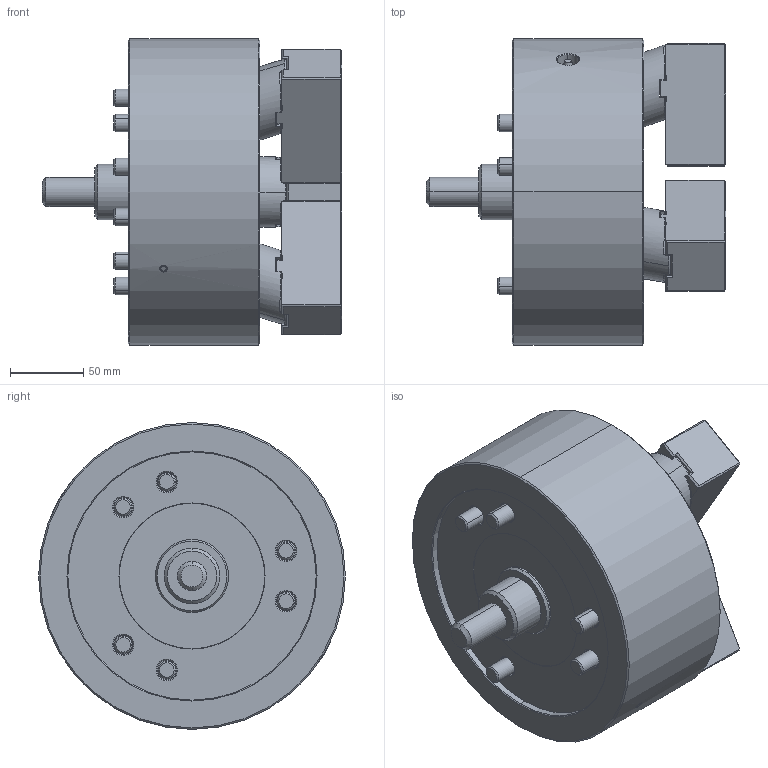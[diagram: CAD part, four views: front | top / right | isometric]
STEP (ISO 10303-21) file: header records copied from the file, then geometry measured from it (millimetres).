
FILE_DESCRIPTION (( 'STEP AP214' ), '1' );
FILE_NAME ('LU-08_UC.STEP', '2019-11-08T01:19:54', ( '' ), ( '' ), 'SwSTEP 2.0', 'SolidWorks 2017', '' );
FILE_SCHEMA (( 'AUTOMOTIVE_DESIGN' ));
Length unit declared in the file: millimetre
Products named in the file (4): 結合; 0030112025; 61P343325; LU-08_UC
Assembly tree (10 placements, depth 2):
  LU-08_UC
    61P343325  x3
    0030112025  x6
    結合
Bounding box: 205 x 210 x 210 mm (x, y, z)
Volume: 3438898.7 mm3; surface area: 289765.9 mm2
Topology: 10 solids, 11 shells, 1429 faces, 3488 edges, 2136 vertices
Faces by surface type: plane 790, cone 263, cylinder 197, bspline 147, torus 32
Entity records: 39920 total; most frequent: CARTESIAN_POINT 14642, ORIENTED_EDGE 5472, DIRECTION 4679, EDGE_CURVE 2736, VERTEX_POINT 1725, VECTOR 1633, LINE 1633, AXIS2_PLACEMENT_3D 1523
